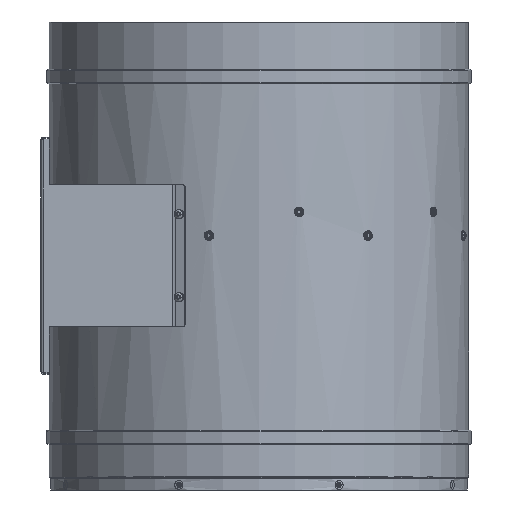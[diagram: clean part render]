
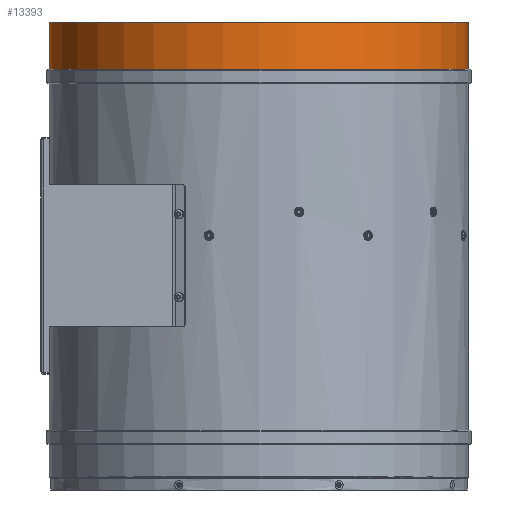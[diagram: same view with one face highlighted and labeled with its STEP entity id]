
A CAD part, left-side view. The second image highlights one B-rep face of the part: STEP entity #13393.
In plain terms, the highlighted cylindrical face has radius 176.75 mm (diameter 353.5 mm), a partial arc.
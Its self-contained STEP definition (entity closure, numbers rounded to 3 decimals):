
#1528 = CIRCLE ( 'NONE', #7339, 176.75 ) ;
#3326 = EDGE_CURVE ( 'NONE', #22743, #23579, #1528, .T. ) ;
#4288 = CARTESIAN_POINT ( 'NONE',  ( -2.352, -173.001, -165.722 ) ) ;
#4410 = DIRECTION ( 'NONE',  ( 0., 0., -1. ) ) ;
#4473 = EDGE_CURVE ( 'NONE', #22416, #22509, #8514, .T. ) ;
#4629 = EDGE_CURVE ( 'NONE', #22416, #22743, #5027, .T. ) ;
#5027 = LINE ( 'NONE', #4288, #5164 ) ;
#5164 = VECTOR ( 'NONE', #4410, 1000. ) ;
#5446 = DIRECTION ( 'NONE',  ( 0., 0., -1. ) ) ;
#5639 = DIRECTION ( 'NONE',  ( 0., -1., 0. ) ) ;
#5720 = CARTESIAN_POINT ( 'NONE',  ( -2.352, 3.749, 198.028 ) ) ;
#7291 = EDGE_CURVE ( 'NONE', #22509, #23579, #19280, .T. ) ;
#7339 = AXIS2_PLACEMENT_3D ( 'NONE', #15596, #14904, #14797 ) ;
#7688 = AXIS2_PLACEMENT_3D ( 'NONE', #5720, #5446, #5639 ) ;
#8114 = ORIENTED_EDGE ( 'NONE', *, *, #4473, .T. ) ;
#8235 = ORIENTED_EDGE ( 'NONE', *, *, #7291, .T. ) ;
#8310 = ORIENTED_EDGE ( 'NONE', *, *, #4629, .F. ) ;
#8514 = CIRCLE ( 'NONE', #7688, 176.75 ) ;
#9361 = ORIENTED_EDGE ( 'NONE', *, *, #3326, .F. ) ;
#10570 = AXIS2_PLACEMENT_3D ( 'NONE', #23973, #24289, #24902 ) ;
#11374 = EDGE_LOOP ( 'NONE', ( #8114, #8235, #9361, #8310 ) ) ;
#13393 = ADVANCED_FACE ( 'NONE', ( #19083 ), #18862, .T. ) ;
#14596 = CARTESIAN_POINT ( 'NONE',  ( -2.352, 180.499, 158.028 ) ) ;
#14797 = DIRECTION ( 'NONE',  ( 0., -1., 0. ) ) ;
#14904 = DIRECTION ( 'NONE',  ( 0., 0., -1. ) ) ;
#15596 = CARTESIAN_POINT ( 'NONE',  ( -2.352, 3.749, 158.028 ) ) ;
#18862 = CYLINDRICAL_SURFACE ( 'NONE', #10570, 176.75 ) ;
#19083 = FACE_OUTER_BOUND ( 'NONE', #11374, .T. ) ;
#19280 = LINE ( 'NONE', #20564, #19539 ) ;
#19539 = VECTOR ( 'NONE', #20527, 1000. ) ;
#20527 = DIRECTION ( 'NONE',  ( 0., 0., -1. ) ) ;
#20564 = CARTESIAN_POINT ( 'NONE',  ( -2.352, 180.499, -165.722 ) ) ;
#21826 = CARTESIAN_POINT ( 'NONE',  ( -2.352, -173.001, 198.028 ) ) ;
#21880 = CARTESIAN_POINT ( 'NONE',  ( -2.352, 180.499, 198.028 ) ) ;
#22018 = CARTESIAN_POINT ( 'NONE',  ( -2.352, -173.001, 158.028 ) ) ;
#22416 = VERTEX_POINT ( 'NONE', #21826 ) ;
#22509 = VERTEX_POINT ( 'NONE', #21880 ) ;
#22743 = VERTEX_POINT ( 'NONE', #22018 ) ;
#23579 = VERTEX_POINT ( 'NONE', #14596 ) ;
#23973 = CARTESIAN_POINT ( 'NONE',  ( -2.352, 3.749, -165.722 ) ) ;
#24289 = DIRECTION ( 'NONE',  ( 0., 0., -1. ) ) ;
#24902 = DIRECTION ( 'NONE',  ( 0., -1., 0. ) ) ;
